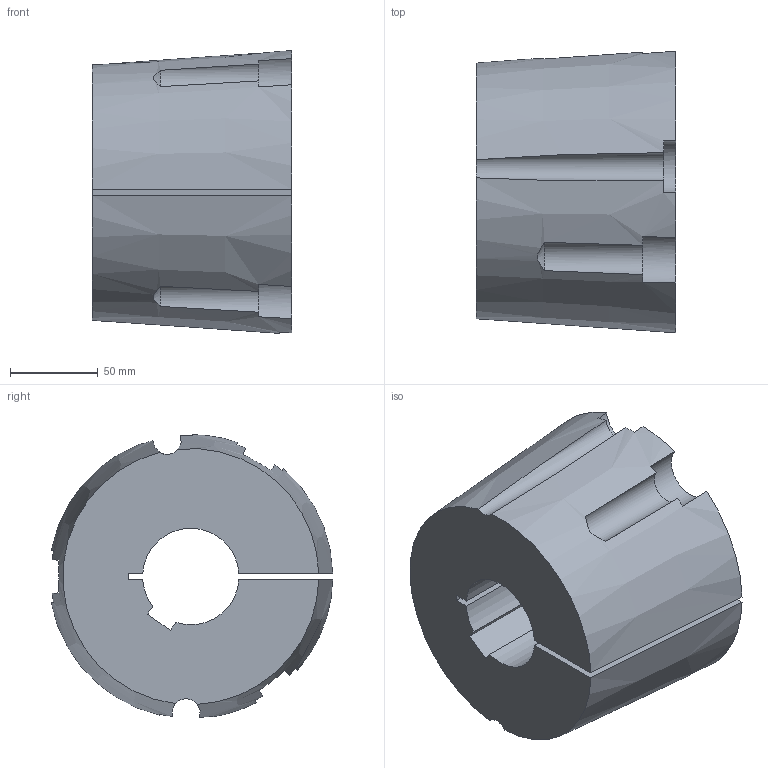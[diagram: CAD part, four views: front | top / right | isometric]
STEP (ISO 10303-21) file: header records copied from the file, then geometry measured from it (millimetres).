
FILE_DESCRIPTION( ( 'STEP AP203' ), '1' );
FILE_NAME( 'D:/export/antriebselemente/spannbuchsen_und_spannsaetze/taper-spannbuchsen_1008_bis_5050/taper-spannbuchsen_62251555Isometric_249.stp', '2018-12-11T11:11:34', ( '' ), ( '' ), ' ', 'PARTsolutions', ' ' );
FILE_SCHEMA( ( 'CONFIG_CONTROL_DESIGN' ) );
Length unit declared in the file: millimetre
Products named in the file (1): _taper-spannbuchsen_62251555
Bounding box: 114 x 160.6 x 161.35 mm (x, y, z)
Volume: 1754012.1 mm3; surface area: 124110.9 mm2
Topology: 1 solids, 1 shells, 34 faces, 96 edges, 64 vertices
Faces by surface type: plane 15, cylinder 13, cone 6
Entity records: 1314 total; most frequent: CARTESIAN_POINT 390, ORIENTED_EDGE 192, DIRECTION 186, EDGE_CURVE 96, AXIS2_PLACEMENT_3D 80, VERTEX_POINT 64, CIRCLE 45, ADVANCED_FACE 34
